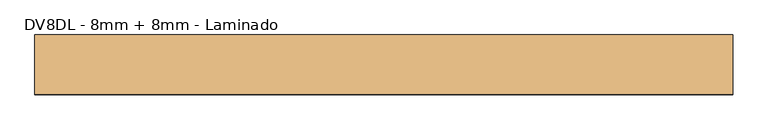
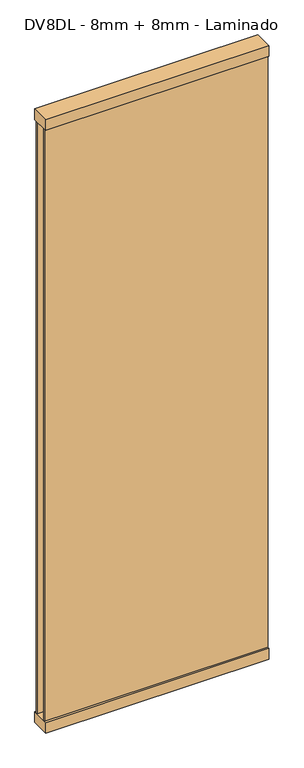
"""IFC4 building model written with IfcOpenShell, lengths in millimetres: door geometry, Mobiliário_Mobiliário de Escritório_Painel Vidro Duplo - DVDT, DVDL e DVXL (Complementar)_Marelli : DV8DL - 8mm + 8mm - Laminado."""

from ifc_helpers import new_model, si_unit, frame, origin, origin_with_axes, place, context, project, spatial, polyline, outline, extrude, source, transform, mapped, element, save


def dv8dl_8mm_8mm_laminado_174facb9(model_context):
    return source(origin(), model_context, "Body", "SweptSolid", [
        extrude(outline(polyline([(500.0, -42.5), (-500.0, -42.5), (-500.0, 42.5), (500.0, 42.5), (500.0, -42.5)])), origin_with_axes(), (0.0, 0.0, 1.0), 50.0),
        extrude(outline(polyline([(500.0, -42.5), (-500.0, -42.5), (-500.0, 42.5), (500.0, 42.5), (500.0, -42.5)])), frame((0.0, 0.0, 2850.0), z_axis=(0.0, 0.0, 1.0), x_axis=(1.0, 0.0, 0.0)), (0.0, 0.0, 1.0), 50.0),
        extrude(outline(polyline([(500.0, -33.1), (-500.0, -33.1), (-500.0, -25.1), (500.0, -25.1), (500.0, -33.1)])), frame((0.0, 0.0, 50.0), z_axis=(0.0, 0.0, 1.0), x_axis=(1.0, 0.0, 0.0)), (0.0, 0.0, 1.0), 2800.0),
        extrude(outline(polyline([(500.0, 33.1), (500.0, 25.1), (-500.0, 25.1), (-500.0, 33.1), (500.0, 33.1)])), frame((0.0, 0.0, 50.0), z_axis=(0.0, 0.0, 1.0), x_axis=(1.0, 0.0, 0.0)), (0.0, 0.0, 1.0), 2800.0),
    ])


if __name__ == "__main__":
    model = new_model("IFC4")
    model_context = context("Model", 3, world=origin())
    ifc_project = project(units=[si_unit("LENGTHUNIT", "METRE", prefix="MILLI")], contexts=[model_context])
    site = spatial("IfcSite", under=ifc_project)
    building = spatial("IfcBuilding", under=site)
    placement = place(None, origin())
    dv8dl_8mm_8mm_laminado_shape = dv8dl_8mm_8mm_laminado_174facb9(model_context)
    element("IfcDoor", 1, ObjectType="Mobiliário_Mobiliário de Escritório_Painel Vidro Duplo - DVDT, DVDL e DVXL (Complementar)_Marelli : DV8DL - 8mm + 8mm - Laminado", at=placement, inside=building, context=model_context, shape_type="MappedRepresentation", body=[
        mapped(dv8dl_8mm_8mm_laminado_shape, transform((0.0, 0.0, 0.0), x_axis=(1.0, 0.0, 0.0), y_axis=(0.0, 1.0, 0.0), z_axis=(0.0, 0.0, 1.0))),
    ])
    save(model, "model.ifc")
